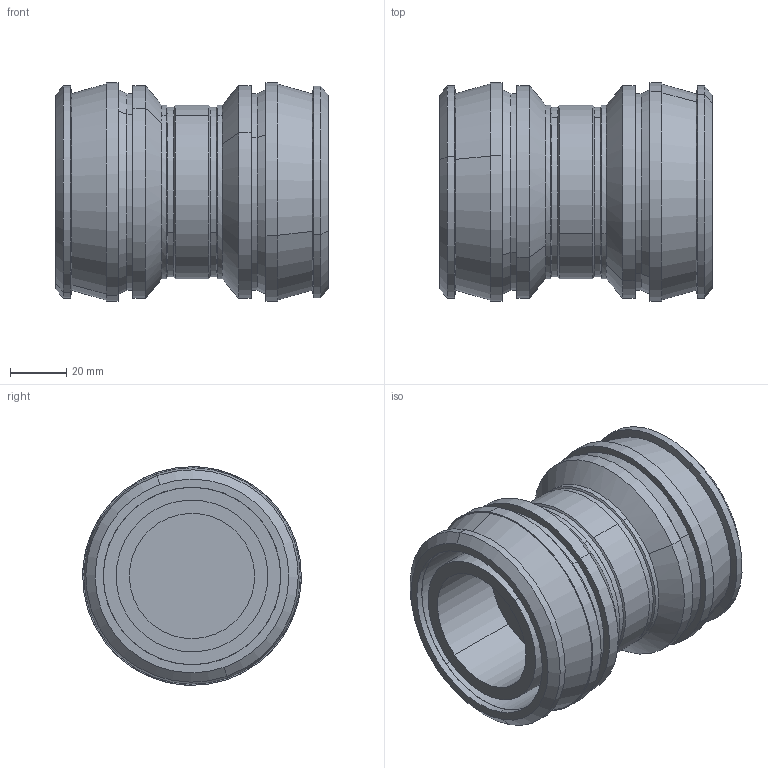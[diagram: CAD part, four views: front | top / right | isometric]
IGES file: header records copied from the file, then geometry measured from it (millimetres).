
Start section: 3D InterOp IGES (Version 25 0 1), Spatial Corp. Copyright (c) 1999-2007.
Global section: file name: pim0004794.igs; native system: Spatial Corp.; preprocessor: 3D InterOp ACIS/IGES; author: CAD-PIM; organization: TransMagic, Inc.; date: 20150617.102450; units: millimetre
Bounding box: 97 x 77.8 x 77.8 mm (x, y, z)
Volume: 245827.3 mm3; surface area: 63379.9 mm2
Topology: 1 solids, 1 shells, 86 faces, 228 edges, 158 vertices
Faces by surface type: cylinder 38, cone 16, plane 16, bspline 16
